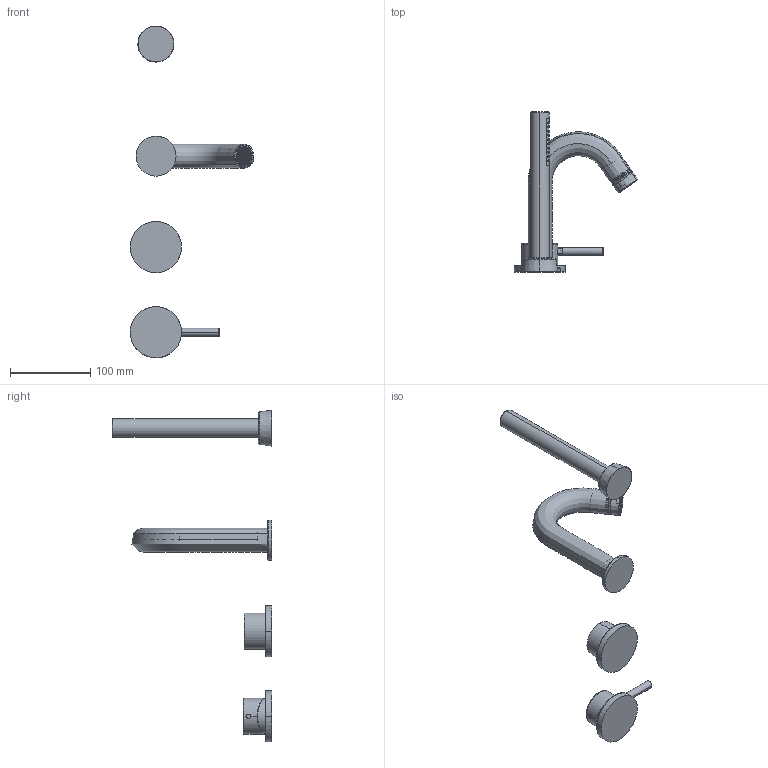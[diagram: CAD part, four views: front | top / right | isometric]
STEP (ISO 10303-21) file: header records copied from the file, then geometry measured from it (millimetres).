
FILE_DESCRIPTION (( 'STEP AP214' ), '1' );
FILE_NAME ('12108910 x architetti.STEP', '2024-09-26T10:00:50', ( '' ), ( '' ), 'SwSTEP 2.0', 'SolidWorks 2020', '' );
FILE_SCHEMA (( 'AUTOMOTIVE_DESIGN' ));
Length unit declared in the file: millimetre
Products named in the file (1): 12108910 x architetti
Bounding box: 154.36 x 199.8 x 414.66 mm (x, y, z)
Surface area: 128752.2 mm2 (no closed solid volume)
Topology: 0 solids, 14 shells, 5736 faces, 14644 edges, 9534 vertices
Faces by surface type: plane 4334, cylinder 665, cone 625, bspline 110, torus 2
Entity records: 266266 total; most frequent: CARTESIAN_POINT 80898, ORIENTED_EDGE 29274, DIRECTION 18454, EDGE_CURVE 14640, VERTEX_POINT 9534, B_SPLINE_CURVE_WITH_KNOTS 7315, EDGE_LOOP 6362, AXIS2_PLACEMENT_3D 6172
